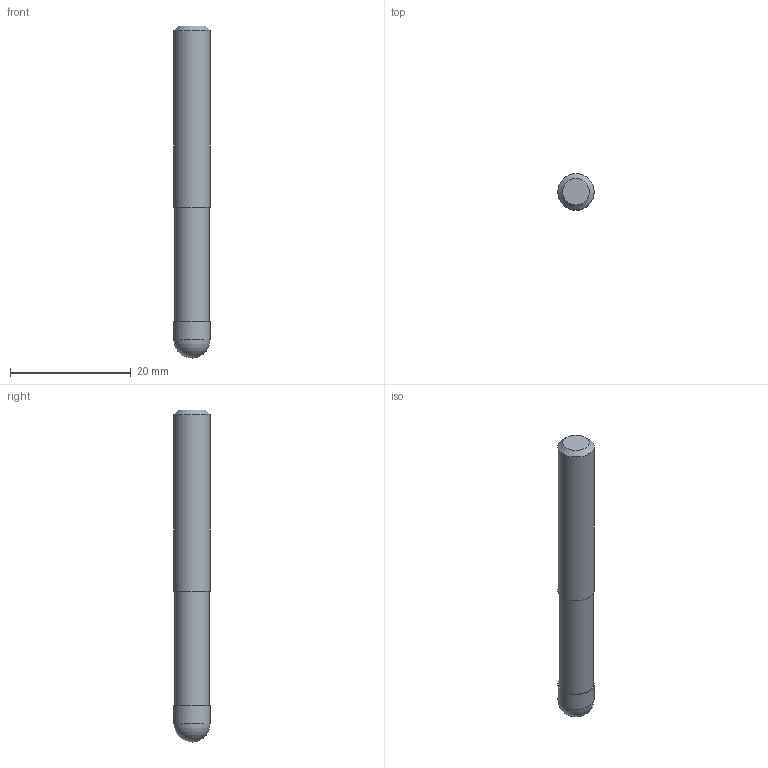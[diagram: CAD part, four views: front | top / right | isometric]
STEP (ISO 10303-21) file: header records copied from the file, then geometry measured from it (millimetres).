
FILE_DESCRIPTION((''),'2;1');
FILE_NAME('C:\Users\nsx150\AppData\Local\Temp\Mastercam 2021\QT8KEW0Y7J\TEMP.step','2021-04-23T11:22:11',(''),(''),'STEP Write','Mastercam 2021 ... CNC Software, Inc.','');
FILE_SCHEMA(('AUTOMOTIVE_DESIGN'));
Length unit declared in the file: millimetre
Products named in the file (1): None
Bounding box: 6 x 6 x 55 mm (x, y, z)
Volume: 1468.9 mm3; surface area: 1094 mm2
Topology: 2 solids, 2 shells, 9 faces, 13 edges, 8 vertices
Faces by surface type: plane 4, cylinder 3, sphere 1, cone 1
Full cylindrical faces by diameter (mm): 5.7 x1, 6 x2
Entity records: 211 total; most frequent: DIRECTION 36, CARTESIAN_POINT 25, AXIS2_PLACEMENT_3D 18, ORIENTED_EDGE 14, EDGE_LOOP 14, STYLED_ITEM 12, ADVANCED_FACE 9, FACE_BOUND 8
